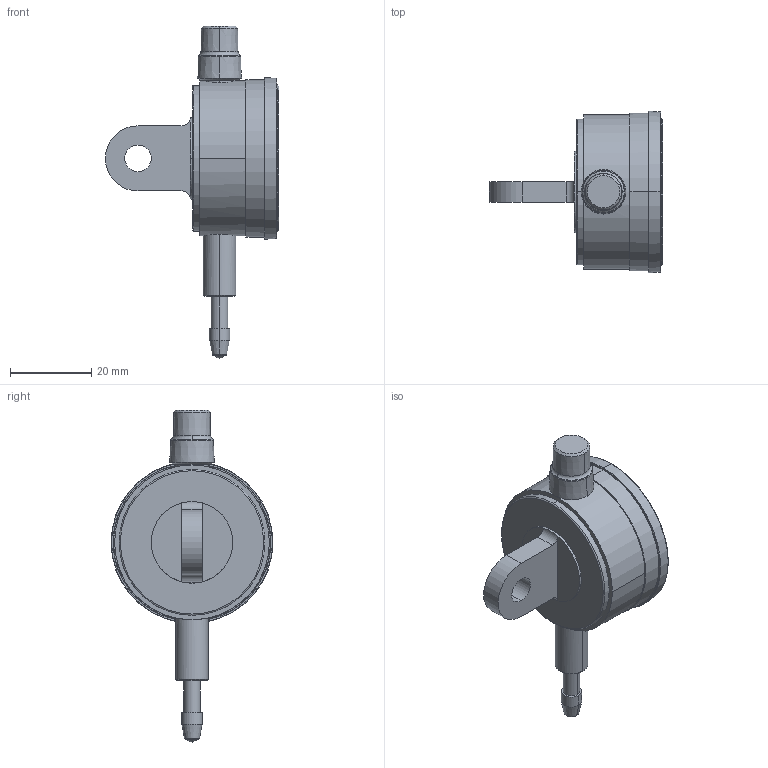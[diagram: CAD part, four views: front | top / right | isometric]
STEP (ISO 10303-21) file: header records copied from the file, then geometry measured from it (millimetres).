
FILE_DESCRIPTION(('Creo Elements/Direct Modeling STEP Export'),'2;1');
FILE_NAME('1044S.stp','2020-03-23T 9:25:49',(''),(''),'Creo Elements/Direct Modeling STEP processor for AP214 (Solid Model)','Creo Elements/Direct Modeling 18.1I 13-Aug-2016 (C) Parametric Technology GmbH','');
FILE_SCHEMA(('AUTOMOTIVE_DESIGN { 1 0 10303 214 1 1 1 1 }'));
Length unit declared in the file: millimetre
Products named in the file (2): 1044S
Assembly tree (1 placements, depth 2):
  1044S
    1044S
Bounding box: 42.5 x 39.71 x 81.5 mm (x, y, z)
Volume: 27653.4 mm3; surface area: 6818.9 mm2
Topology: 1 solids, 1 shells, 77 faces, 188 edges, 123 vertices
Faces by surface type: cone 26, cylinder 23, plane 18, torus 6, revolution 2, sphere 2
Entity records: 2922 total; most frequent: CARTESIAN_POINT 1209, ORIENTED_EDGE 372, DIRECTION 326, EDGE_CURVE 186, AXIS2_PLACEMENT_3D 132, VERTEX_POINT 123, EDGE_LOOP 91, FACE_OUTER_BOUND 77
